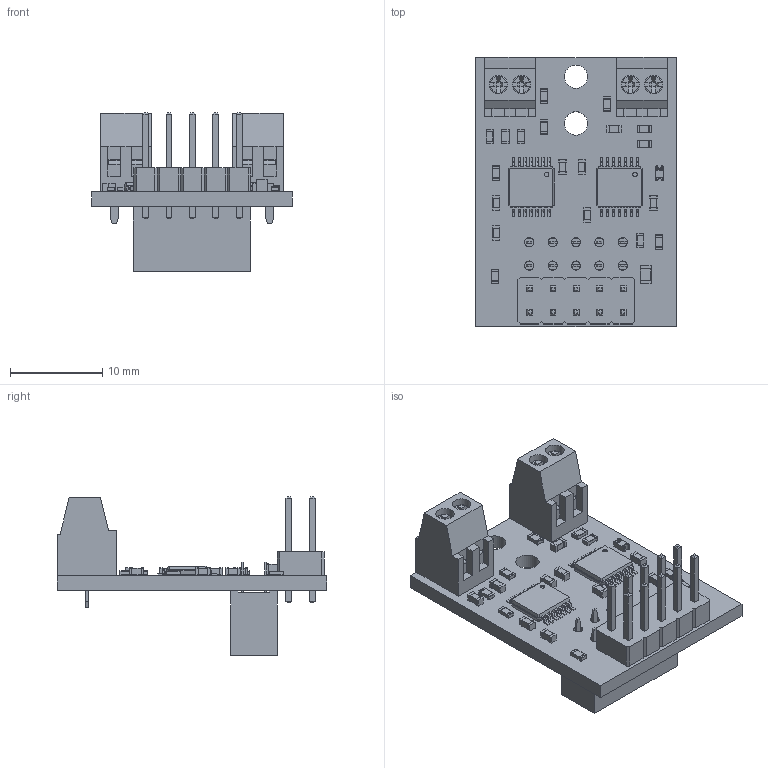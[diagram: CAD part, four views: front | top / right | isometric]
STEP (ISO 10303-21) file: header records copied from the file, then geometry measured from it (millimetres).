
FILE_DESCRIPTION(('KiCad electronic assembly'),'2;1');
FILE_NAME('MAXTempTC.step','2022-06-28T12:05:31',('An Author'),( 'A Company'),'Open CASCADE STEP processor 6.9', 'KiCad to STEP converter','Unknown');
FILE_SCHEMA(('AUTOMOTIVE_DESIGN { 1 0 10303 214 1 1 1 1 }'));
Length unit declared in the file: millimetre
Products named in the file (18): Open CASCADE STEP translator 6.9 1; C_0603_1608Metric; SOLID; PinHeader_2x05_P2.54mm_Vertical; PinSocket_2x05_P2.54mm_Vertical; R_0603_1608Metric; D_0603_1608Metric; L_0805_2012Metric; Wurth_2.54mm_screw_Terminal_2_pos_691210910002-green; COMPOUND; TSSOP-14_4.4x5mm_P0.65mm
Assembly tree (36 placements, depth 3):
  Open CASCADE STEP translator 6.9 1
    C_0603_1608Metric  x10
      SOLID
    PinHeader_2x05_P2.54mm_Vertical
      SOLID
    PinSocket_2x05_P2.54mm_Vertical
      SOLID
    R_0603_1608Metric  x9
      SOLID
    D_0603_1608Metric
      SOLID
    L_0805_2012Metric
      SOLID
    Wurth_2.54mm_screw_Terminal_2_pos_691210910002-green  x2
      COMPOUND
    TSSOP-14_4.4x5mm_P0.65mm  x2
      SOLID
    COMPOUND
Bounding box: 21.74 x 29.33 x 17.24 mm (x, y, z)
Volume: 2015 mm3; surface area: 4262.2 mm2
Topology: 40 solids, 40 shells, 2115 faces, 8036 edges, 8540 vertices
Faces by surface type: plane 1621, cylinder 402, bspline 76, torus 12, cone 4
Full cylindrical faces by diameter (mm): 0.5 x2, 1 x24, 1.5 x8, 1.7 x4, 2 x4, 2.1 x4, 2.54 x2
Entity records: 94637 total; most frequent: CARTESIAN_POINT 18849, DIRECTION 12683, LINE 9223, VECTOR 9223, ORIENTED_EDGE 6030, PCURVE 6030, DEFINITIONAL_REPRESENTATION 6030, EDGE_CURVE 3015
